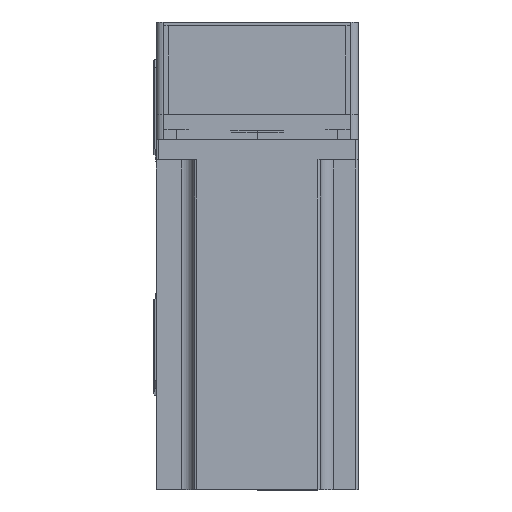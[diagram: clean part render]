
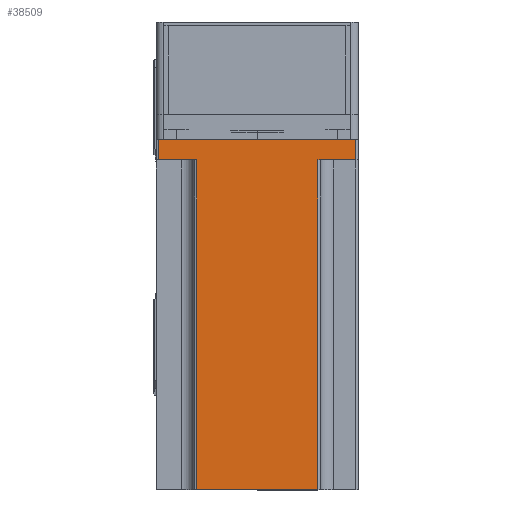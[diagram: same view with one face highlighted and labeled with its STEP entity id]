
A CAD part, top view. The second image highlights one B-rep face of the part: STEP entity #38509.
In plain terms, the highlighted planar face has unit normal (0, 0, 1) as drawn and (0, 1, 0) by its records, which use the part's own axes.
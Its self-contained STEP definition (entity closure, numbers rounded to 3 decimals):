
#373 = ORIENTED_EDGE ( 'NONE', *, *, #39268, .T. ) ;
#988 = ORIENTED_EDGE ( 'NONE', *, *, #10317, .T. ) ;
#1108 = CARTESIAN_POINT ( 'NONE',  ( 40., 40., 138.3 ) ) ;
#1508 = CARTESIAN_POINT ( 'NONE',  ( 24., 40., 8. ) ) ;
#2148 = LINE ( 'NONE', #52013, #46211 ) ;
#2575 = ORIENTED_EDGE ( 'NONE', *, *, #48249, .T. ) ;
#3085 = CARTESIAN_POINT ( 'NONE',  ( -25., 40., 8. ) ) ;
#4846 = CARTESIAN_POINT ( 'NONE',  ( 39., 40., 0. ) ) ;
#4963 = ORIENTED_EDGE ( 'NONE', *, *, #41602, .F. ) ;
#5254 = LINE ( 'NONE', #13666, #27923 ) ;
#7370 = DIRECTION ( 'NONE',  ( 1., 0., 0. ) ) ;
#7920 = VERTEX_POINT ( 'NONE', #36508 ) ;
#7936 = DIRECTION ( 'NONE',  ( 0., -1., 0. ) ) ;
#9285 = CARTESIAN_POINT ( 'NONE',  ( -39., 40., 8. ) ) ;
#9422 = CARTESIAN_POINT ( 'NONE',  ( -24., 40., 138.3 ) ) ;
#10317 = EDGE_CURVE ( 'NONE', #28352, #39564, #2148, .T. ) ;
#11243 = VERTEX_POINT ( 'NONE', #54564 ) ;
#11632 = VECTOR ( 'NONE', #43872, 1000. ) ;
#11941 = VECTOR ( 'NONE', #15320, 1000. ) ;
#13666 = CARTESIAN_POINT ( 'NONE',  ( -39., 40., 138.3 ) ) ;
#14246 = VERTEX_POINT ( 'NONE', #1508 ) ;
#15320 = DIRECTION ( 'NONE',  ( 0., 0., -1. ) ) ;
#16846 = CARTESIAN_POINT ( 'NONE',  ( 25., 40., 8. ) ) ;
#17007 = LINE ( 'NONE', #3085, #26963 ) ;
#18326 = CARTESIAN_POINT ( 'NONE',  ( 39., 40., 138.3 ) ) ;
#18520 = VERTEX_POINT ( 'NONE', #39793 ) ;
#20781 = AXIS2_PLACEMENT_3D ( 'NONE', #33488, #7936, #37785 ) ;
#21060 = ORIENTED_EDGE ( 'NONE', *, *, #27371, .T. ) ;
#21189 = DIRECTION ( 'NONE',  ( -1., 0., 0. ) ) ;
#21314 = EDGE_LOOP ( 'NONE', ( #48461, #21060, #4963, #2575, #35370, #22392, #988, #373 ) ) ;
#21473 = VECTOR ( 'NONE', #21189, 1000. ) ;
#22392 = ORIENTED_EDGE ( 'NONE', *, *, #45822, .T. ) ;
#26963 = VECTOR ( 'NONE', #7370, 1000. ) ;
#27371 = EDGE_CURVE ( 'NONE', #30366, #11243, #41220, .T. ) ;
#27923 = VECTOR ( 'NONE', #43493, 1000. ) ;
#28352 = VERTEX_POINT ( 'NONE', #4846 ) ;
#28456 = LINE ( 'NONE', #1108, #39784 ) ;
#30366 = VERTEX_POINT ( 'NONE', #30523 ) ;
#30523 = CARTESIAN_POINT ( 'NONE',  ( -24., 40., 8. ) ) ;
#30693 = EDGE_CURVE ( 'NONE', #18520, #14246, #32726, .T. ) ;
#31132 = DIRECTION ( 'NONE',  ( -1., 0., 0. ) ) ;
#32726 = LINE ( 'NONE', #16846, #21473 ) ;
#33488 = CARTESIAN_POINT ( 'NONE',  ( 40., 40., 138.3 ) ) ;
#34591 = LINE ( 'NONE', #40835, #11941 ) ;
#35370 = ORIENTED_EDGE ( 'NONE', *, *, #30693, .F. ) ;
#35607 = LINE ( 'NONE', #18326, #11632 ) ;
#36508 = CARTESIAN_POINT ( 'NONE',  ( 24., 40., 138.3 ) ) ;
#37785 = DIRECTION ( 'NONE',  ( 1., 0., 0. ) ) ;
#38509 = ADVANCED_FACE ( 'NONE', ( #47436 ), #41696, .F. ) ;
#39268 = EDGE_CURVE ( 'NONE', #39564, #49303, #5254, .T. ) ;
#39564 = VERTEX_POINT ( 'NONE', #45499 ) ;
#39784 = VECTOR ( 'NONE', #47933, 1000. ) ;
#39793 = CARTESIAN_POINT ( 'NONE',  ( 39., 40., 8. ) ) ;
#40835 = CARTESIAN_POINT ( 'NONE',  ( 24., 40., 138.3 ) ) ;
#41220 = LINE ( 'NONE', #9422, #53930 ) ;
#41602 = EDGE_CURVE ( 'NONE', #7920, #11243, #28456, .T. ) ;
#41696 = PLANE ( 'NONE',  #20781 ) ;
#43493 = DIRECTION ( 'NONE',  ( 0., 0., 1. ) ) ;
#43872 = DIRECTION ( 'NONE',  ( 0., 0., -1. ) ) ;
#45499 = CARTESIAN_POINT ( 'NONE',  ( -39., 40., 0. ) ) ;
#45822 = EDGE_CURVE ( 'NONE', #18520, #28352, #35607, .T. ) ;
#46211 = VECTOR ( 'NONE', #31132, 1000. ) ;
#47436 = FACE_OUTER_BOUND ( 'NONE', #21314, .T. ) ;
#47933 = DIRECTION ( 'NONE',  ( -1., 0., 0. ) ) ;
#48249 = EDGE_CURVE ( 'NONE', #7920, #14246, #34591, .T. ) ;
#48461 = ORIENTED_EDGE ( 'NONE', *, *, #53390, .T. ) ;
#49303 = VERTEX_POINT ( 'NONE', #9285 ) ;
#51937 = DIRECTION ( 'NONE',  ( 0., 0., 1. ) ) ;
#52013 = CARTESIAN_POINT ( 'NONE',  ( 40., 40., 0. ) ) ;
#53390 = EDGE_CURVE ( 'NONE', #49303, #30366, #17007, .T. ) ;
#53930 = VECTOR ( 'NONE', #51937, 1000. ) ;
#54564 = CARTESIAN_POINT ( 'NONE',  ( -24., 40., 138.3 ) ) ;
